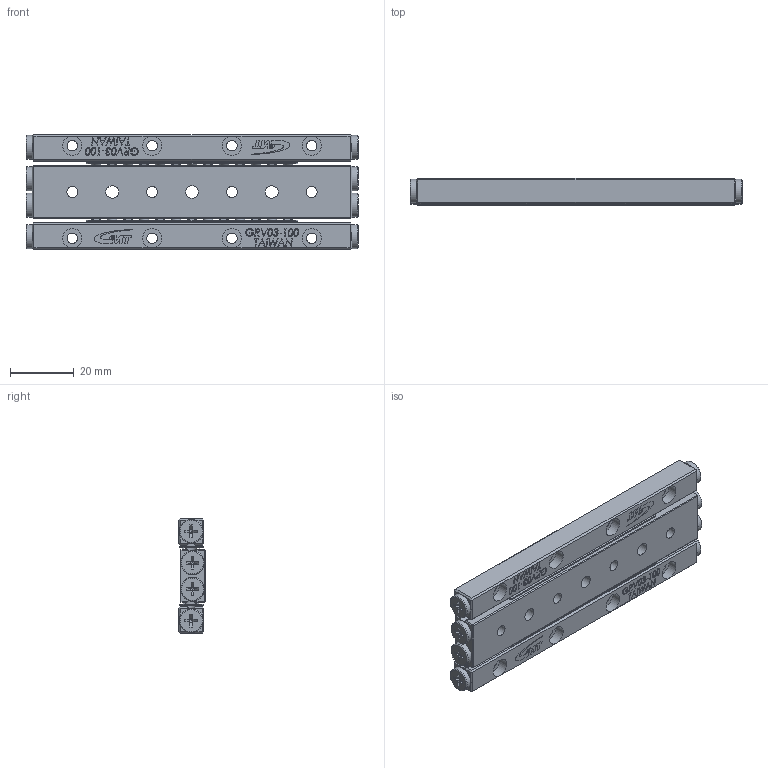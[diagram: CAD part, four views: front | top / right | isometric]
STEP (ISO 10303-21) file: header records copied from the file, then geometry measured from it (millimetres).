
FILE_DESCRIPTION (( 'STEP AP203' ), '1' );
FILE_NAME ('GRD03-100.STEP', '2023-10-27T07:20:27', ( '' ), ( '' ), 'SwSTEP 2.0', 'SolidWorks 2019', '' );
FILE_SCHEMA (( 'CONFIG_CONTROL_DESIGN' ));
Length unit declared in the file: millimetre
Products named in the file (4): GRD03-100-模糊化中軌; GRV03-100-模糊化軌道; GRD03-100; GRV03-100-模糊化保持器組
Assembly tree (5 placements, depth 2):
  GRD03-100
    GRD03-100-模糊化中軌
    GRV03-100-模糊化軌道  x2
    GRV03-100-模糊化保持器組  x2
Bounding box: 104 x 8.5 x 36 mm (x, y, z)
Volume: 25107.4 mm3; surface area: 16939.1 mm2
Topology: 5 solids, 5 shells, 1583 faces, 3886 edges, 2500 vertices
Faces by surface type: plane 1149, bspline 205, cylinder 89, cone 72, torus 68
Full cylindrical faces by diameter (mm): 3.3 x8, 3.5 x4, 4 x3, 6 x12, 7.5 x8
Entity records: 37097 total; most frequent: CARTESIAN_POINT 14378, ORIENTED_EDGE 4802, DIRECTION 3963, EDGE_CURVE 2401, LINE 1697, VECTOR 1697, VERTEX_POINT 1558, EDGE_LOOP 1175
